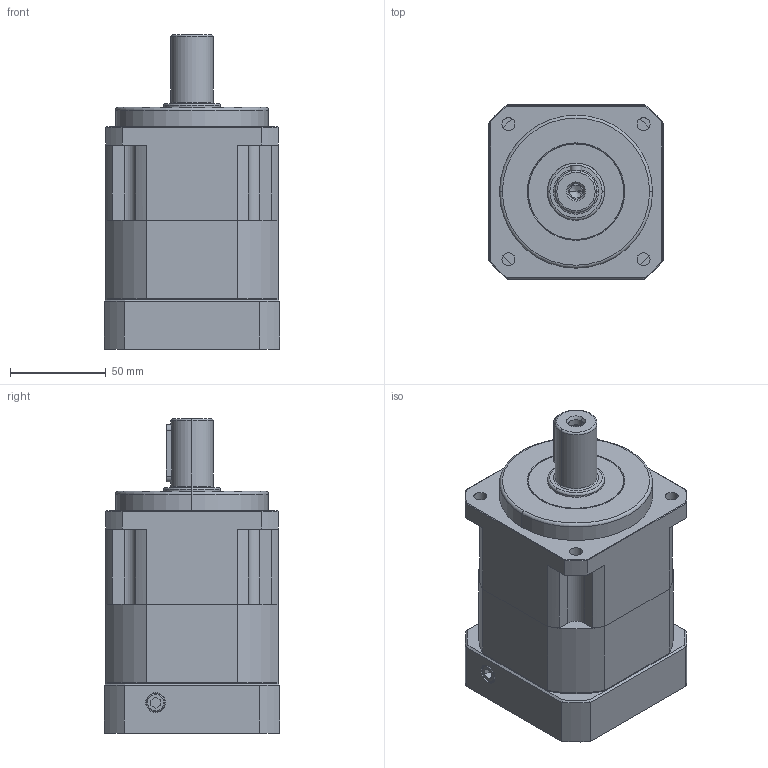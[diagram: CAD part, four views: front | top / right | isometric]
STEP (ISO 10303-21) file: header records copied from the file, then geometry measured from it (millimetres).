
FILE_DESCRIPTION (( 'STEP AP203' ), '1' );
FILE_NAME ('SB90-1-70M5.STEP', '2011-07-12T00:40:13', ( '1' ), ( '' ), 'SwSTEP 2.0', 'SolidWorks 2011', '' );
FILE_SCHEMA (( 'CONFIG_CONTROL_DESIGN' ));
Length unit declared in the file: millimetre
Products named in the file (1): SB90-1-70M5
Bounding box: 92 x 92 x 164.5 mm (x, y, z)
Volume: 720310.8 mm3; surface area: 139842.7 mm2
Topology: 16 solids, 16 shells, 596 faces, 1404 edges, 866 vertices
Faces by surface type: plane 260, cylinder 189, cone 112, torus 26, bspline 9
Entity records: 17974 total; most frequent: CARTESIAN_POINT 4030, DIRECTION 3017, ORIENTED_EDGE 2756, EDGE_CURVE 1378, AXIS2_PLACEMENT_3D 1139, VERTEX_POINT 866, LINE 739, VECTOR 739
